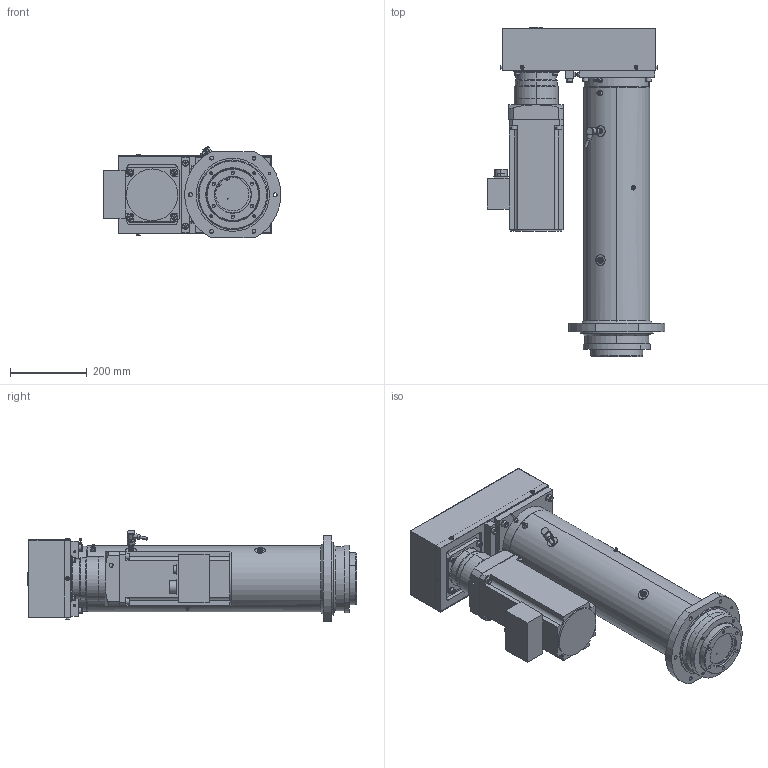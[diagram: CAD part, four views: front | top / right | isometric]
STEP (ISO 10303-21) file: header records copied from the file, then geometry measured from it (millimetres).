
FILE_DESCRIPTION (( 'STEP AP203' ), '1' );
FILE_NAME ('374043.STEP', '2017-08-21T11:51:23', ( 'Holtz' ), ( '' ), 'SwSTEP 2.0', 'SolidWorks 2016', '' );
FILE_SCHEMA (( 'CONFIG_CONTROL_DESIGN' ));
Length unit declared in the file: millimetre
Products named in the file (1): 374043
Bounding box: 461.16 x 856 x 238.42 mm (x, y, z)
Volume: 17230429.8 mm3; surface area: 2562252.5 mm2
Topology: 58 solids, 59 shells, 1815 faces, 4191 edges, 2530 vertices
Faces by surface type: plane 728, cylinder 692, cone 317, torus 72, bspline 6
Entity records: 56111 total; most frequent: CARTESIAN_POINT 14475, DIRECTION 9192, ORIENTED_EDGE 8074, EDGE_CURVE 4037, AXIS2_PLACEMENT_3D 3583, VERTEX_POINT 2530, EDGE_LOOP 2203, VECTOR 2026
